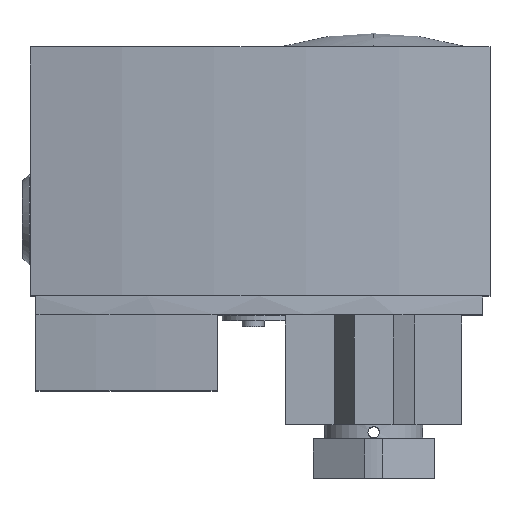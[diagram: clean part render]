
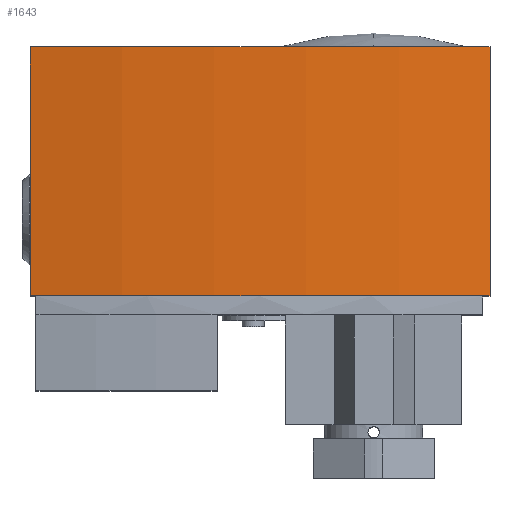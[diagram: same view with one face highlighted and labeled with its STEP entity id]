
A CAD part, top view. The second image highlights one B-rep face of the part: STEP entity #1643.
In plain terms, the highlighted cylindrical face has radius 300.747 mm (diameter 601.494 mm), a partial arc.
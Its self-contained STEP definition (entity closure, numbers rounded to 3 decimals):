
#71=CARTESIAN_POINT('',(30.,0.,259.));
#72=DIRECTION('',(0.,1.,0.));
#73=DIRECTION('',(0.202,0.,-0.979));
#74=AXIS2_PLACEMENT_3D('',#71,#72,#73);
#136=DIRECTION('',(0.,-1.,0.));
#137=VECTOR('',#136,65.8);
#138=CARTESIAN_POINT('',(90.747,0.,-35.548));
#139=LINE('',#138,#137);
#140=DIRECTION('',(0.,-1.,0.));
#141=VECTOR('',#140,65.8);
#142=CARTESIAN_POINT('',(-30.747,0.,-35.548));
#143=LINE('',#142,#141);
#148=CARTESIAN_POINT('',(30.,-65.8,259.));
#149=DIRECTION('',(0.,1.,0.));
#150=DIRECTION('',(0.202,0.,-0.979));
#151=AXIS2_PLACEMENT_3D('',#148,#149,#150);
#1215=CARTESIAN_POINT('',(90.747,0.,-35.548));
#1216=CARTESIAN_POINT('',(-30.747,0.,-35.548));
#1217=VERTEX_POINT('',#1215);
#1218=VERTEX_POINT('',#1216);
#1223=CARTESIAN_POINT('',(90.747,-65.8,-35.548));
#1224=CARTESIAN_POINT('',(-30.747,-65.8,-35.548));
#1225=VERTEX_POINT('',#1223);
#1226=VERTEX_POINT('',#1224);
#1630=CARTESIAN_POINT('',(30.,0.,259.));
#1631=DIRECTION('',(0.,1.,0.));
#1632=DIRECTION('',(1.,0.,0.));
#1633=AXIS2_PLACEMENT_3D('',#1630,#1631,#1632);
#1634=CYLINDRICAL_SURFACE('',#1633,300.747);
#1635=ORIENTED_EDGE('',*,*,#1602,.T.);
#1637=ORIENTED_EDGE('',*,*,#1636,.T.);
#1639=ORIENTED_EDGE('',*,*,#1638,.F.);
#1640=ORIENTED_EDGE('',*,*,#1583,.F.);
#1641=EDGE_LOOP('',(#1635,#1637,#1639,#1640));
#1642=FACE_OUTER_BOUND('',#1641,.F.);
#75=CIRCLE('',#74,300.747);
#152=CIRCLE('',#151,300.747);
#1583=EDGE_CURVE('',#1217,#1225,#139,.T.);
#1602=EDGE_CURVE('',#1217,#1218,#75,.T.);
#1636=EDGE_CURVE('',#1218,#1226,#143,.T.);
#1638=EDGE_CURVE('',#1225,#1226,#152,.T.);
#1643=ADVANCED_FACE('',(#1642),#1634,.T.);
